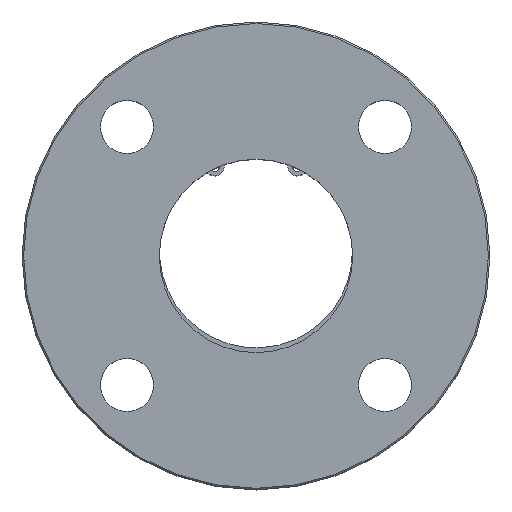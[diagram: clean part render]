
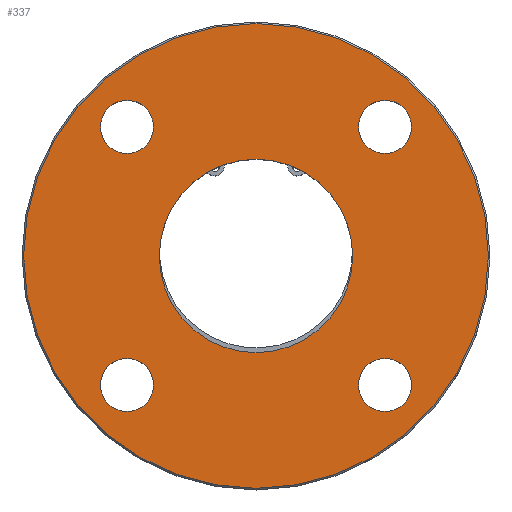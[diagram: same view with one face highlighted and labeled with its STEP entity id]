
A CAD part, top view. The second image highlights one B-rep face of the part: STEP entity #337.
In plain terms, the highlighted planar face has unit normal (0, 0, 1).
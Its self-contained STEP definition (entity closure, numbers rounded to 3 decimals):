
#15 = EDGE_LOOP ( 'NONE', ( #713, #1315 ) ) ;
#46 = DIRECTION ( 'NONE',  ( 0., 1., 0. ) ) ;
#67 = DIRECTION ( 'NONE',  ( 0., 0., -1. ) ) ;
#71 = ORIENTED_EDGE ( 'NONE', *, *, #89, .T. ) ;
#89 = EDGE_CURVE ( 'NONE', #999, #877, #511, .T. ) ;
#122 = FACE_BOUND ( 'NONE', #537, .T. ) ;
#135 = PLANE ( 'NONE',  #1384 ) ;
#139 = DIRECTION ( 'NONE',  ( -1., 0., 0. ) ) ;
#144 = EDGE_CURVE ( 'NONE', #877, #999, #740, .T. ) ;
#174 = EDGE_CURVE ( 'NONE', #558, #176, #371, .T. ) ;
#176 = VERTEX_POINT ( 'NONE', #1123 ) ;
#191 = CARTESIAN_POINT ( 'NONE',  ( 49.866, -41.366, 444.5 ) ) ;
#192 = ORIENTED_EDGE ( 'NONE', *, *, #1507, .F. ) ;
#197 = CARTESIAN_POINT ( 'NONE',  ( 41.366, 41.366, 444.5 ) ) ;
#200 = CARTESIAN_POINT ( 'NONE',  ( 0., 0., 444.5 ) ) ;
#201 = ORIENTED_EDGE ( 'NONE', *, *, #693, .T. ) ;
#208 = DIRECTION ( 'NONE',  ( 0., 0., -1. ) ) ;
#214 = EDGE_CURVE ( 'NONE', #502, #656, #252, .T. ) ;
#216 = DIRECTION ( 'NONE',  ( 0., 1., 0. ) ) ;
#225 = ORIENTED_EDGE ( 'NONE', *, *, #465, .T. ) ;
#231 = CIRCLE ( 'NONE', #417, 8.5 ) ;
#252 = CIRCLE ( 'NONE', #591, 8.5 ) ;
#269 = DIRECTION ( 'NONE',  ( 0., 0., -1. ) ) ;
#304 = CARTESIAN_POINT ( 'NONE',  ( -74.5, 0., 444.5 ) ) ;
#305 = EDGE_LOOP ( 'NONE', ( #71, #1402 ) ) ;
#325 = CIRCLE ( 'NONE', #1183, 8.5 ) ;
#335 = CARTESIAN_POINT ( 'NONE',  ( -41.366, 41.366, 444.5 ) ) ;
#337 = ADVANCED_FACE ( 'NONE', ( #946, #929, #577, #478, #122, #915 ), #135, .T. ) ;
#342 = CARTESIAN_POINT ( 'NONE',  ( 0., 0., 444.5 ) ) ;
#345 = ORIENTED_EDGE ( 'NONE', *, *, #647, .F. ) ;
#346 = CIRCLE ( 'NONE', #1054, 8.5 ) ;
#349 = VERTEX_POINT ( 'NONE', #1399 ) ;
#371 = CIRCLE ( 'NONE', #882, 8.5 ) ;
#381 = CARTESIAN_POINT ( 'NONE',  ( -31., 0., 444.5 ) ) ;
#384 = EDGE_LOOP ( 'NONE', ( #201, #406 ) ) ;
#406 = ORIENTED_EDGE ( 'NONE', *, *, #174, .T. ) ;
#417 = AXIS2_PLACEMENT_3D ( 'NONE', #1238, #208, #995 ) ;
#423 = EDGE_LOOP ( 'NONE', ( #968, #225 ) ) ;
#426 = CARTESIAN_POINT ( 'NONE',  ( 32.866, -41.366, 444.5 ) ) ;
#449 = DIRECTION ( 'NONE',  ( -1., 0., 0. ) ) ;
#452 = EDGE_LOOP ( 'NONE', ( #192, #345 ) ) ;
#465 = EDGE_CURVE ( 'NONE', #656, #502, #909, .T. ) ;
#478 = FACE_BOUND ( 'NONE', #423, .T. ) ;
#502 = VERTEX_POINT ( 'NONE', #777 ) ;
#511 = CIRCLE ( 'NONE', #1382, 31. ) ;
#537 = EDGE_LOOP ( 'NONE', ( #750, #784 ) ) ;
#546 = DIRECTION ( 'NONE',  ( -1., 0., 0. ) ) ;
#558 = VERTEX_POINT ( 'NONE', #1131 ) ;
#560 = AXIS2_PLACEMENT_3D ( 'NONE', #200, #1224, #546 ) ;
#564 = VERTEX_POINT ( 'NONE', #900 ) ;
#577 = FACE_BOUND ( 'NONE', #384, .T. ) ;
#582 = DIRECTION ( 'NONE',  ( 0., 1., 0. ) ) ;
#591 = AXIS2_PLACEMENT_3D ( 'NONE', #197, #1496, #216 ) ;
#597 = VERTEX_POINT ( 'NONE', #191 ) ;
#600 = DIRECTION ( 'NONE',  ( 0., 0., -1. ) ) ;
#603 = CARTESIAN_POINT ( 'NONE',  ( 74.5, 0., 444.5 ) ) ;
#611 = DIRECTION ( 'NONE',  ( 0., 0., -1. ) ) ;
#629 = DIRECTION ( 'NONE',  ( 1., 0., 0. ) ) ;
#638 = EDGE_CURVE ( 'NONE', #597, #1426, #231, .T. ) ;
#647 = EDGE_CURVE ( 'NONE', #942, #1469, #1083, .T. ) ;
#651 = DIRECTION ( 'NONE',  ( 0., -1., 0. ) ) ;
#652 = DIRECTION ( 'NONE',  ( -1., 0., 0. ) ) ;
#656 = VERTEX_POINT ( 'NONE', #1020 ) ;
#658 = DIRECTION ( 'NONE',  ( 0., 0., -1. ) ) ;
#670 = CARTESIAN_POINT ( 'NONE',  ( 0., 0., 444.5 ) ) ;
#693 = EDGE_CURVE ( 'NONE', #176, #558, #346, .T. ) ;
#713 = ORIENTED_EDGE ( 'NONE', *, *, #1392, .T. ) ;
#740 = CIRCLE ( 'NONE', #959, 31. ) ;
#750 = ORIENTED_EDGE ( 'NONE', *, *, #638, .T. ) ;
#774 = CARTESIAN_POINT ( 'NONE',  ( -41.366, -41.366, 444.5 ) ) ;
#777 = CARTESIAN_POINT ( 'NONE',  ( 41.366, 49.866, 444.5 ) ) ;
#784 = ORIENTED_EDGE ( 'NONE', *, *, #914, .T. ) ;
#830 = CIRCLE ( 'NONE', #560, 74.5 ) ;
#854 = AXIS2_PLACEMENT_3D ( 'NONE', #1189, #600, #139 ) ;
#859 = CIRCLE ( 'NONE', #1207, 8.5 ) ;
#874 = CARTESIAN_POINT ( 'NONE',  ( 31., 0., 444.5 ) ) ;
#877 = VERTEX_POINT ( 'NONE', #381 ) ;
#882 = AXIS2_PLACEMENT_3D ( 'NONE', #774, #658, #651 ) ;
#900 = CARTESIAN_POINT ( 'NONE',  ( -49.866, 41.366, 444.5 ) ) ;
#909 = CIRCLE ( 'NONE', #1459, 8.5 ) ;
#914 = EDGE_CURVE ( 'NONE', #1426, #597, #859, .T. ) ;
#915 = FACE_OUTER_BOUND ( 'NONE', #452, .T. ) ;
#929 = FACE_BOUND ( 'NONE', #305, .T. ) ;
#942 = VERTEX_POINT ( 'NONE', #603 ) ;
#946 = FACE_BOUND ( 'NONE', #15, .T. ) ;
#959 = AXIS2_PLACEMENT_3D ( 'NONE', #1199, #611, #1084 ) ;
#968 = ORIENTED_EDGE ( 'NONE', *, *, #214, .T. ) ;
#976 = DIRECTION ( 'NONE',  ( 0., 0., -1. ) ) ;
#995 = DIRECTION ( 'NONE',  ( 1., 0., 0. ) ) ;
#999 = VERTEX_POINT ( 'NONE', #874 ) ;
#1020 = CARTESIAN_POINT ( 'NONE',  ( 41.366, 32.866, 444.5 ) ) ;
#1047 = DIRECTION ( 'NONE',  ( 0., 0., -1. ) ) ;
#1054 = AXIS2_PLACEMENT_3D ( 'NONE', #1174, #1060, #1161 ) ;
#1060 = DIRECTION ( 'NONE',  ( 0., 0., -1. ) ) ;
#1082 = CARTESIAN_POINT ( 'NONE',  ( 41.366, -41.366, 444.5 ) ) ;
#1083 = CIRCLE ( 'NONE', #1429, 74.5 ) ;
#1084 = DIRECTION ( 'NONE',  ( 1., 0., 0. ) ) ;
#1115 = CARTESIAN_POINT ( 'NONE',  ( 0., 0., 444.5 ) ) ;
#1119 = EDGE_CURVE ( 'NONE', #349, #564, #325, .T. ) ;
#1123 = CARTESIAN_POINT ( 'NONE',  ( -41.366, -49.866, 444.5 ) ) ;
#1131 = CARTESIAN_POINT ( 'NONE',  ( -41.366, -32.866, 444.5 ) ) ;
#1161 = DIRECTION ( 'NONE',  ( 0., -1., 0. ) ) ;
#1174 = CARTESIAN_POINT ( 'NONE',  ( -41.366, -41.366, 444.5 ) ) ;
#1183 = AXIS2_PLACEMENT_3D ( 'NONE', #335, #1047, #449 ) ;
#1189 = CARTESIAN_POINT ( 'NONE',  ( -41.366, 41.366, 444.5 ) ) ;
#1191 = DIRECTION ( 'NONE',  ( 1., 0., 0. ) ) ;
#1199 = CARTESIAN_POINT ( 'NONE',  ( 0., 0., 444.5 ) ) ;
#1207 = AXIS2_PLACEMENT_3D ( 'NONE', #1082, #1329, #1191 ) ;
#1224 = DIRECTION ( 'NONE',  ( 0., 0., -1. ) ) ;
#1238 = CARTESIAN_POINT ( 'NONE',  ( 41.366, -41.366, 444.5 ) ) ;
#1315 = ORIENTED_EDGE ( 'NONE', *, *, #1119, .T. ) ;
#1329 = DIRECTION ( 'NONE',  ( 0., 0., -1. ) ) ;
#1382 = AXIS2_PLACEMENT_3D ( 'NONE', #1115, #269, #629 ) ;
#1384 = AXIS2_PLACEMENT_3D ( 'NONE', #342, #1424, #582 ) ;
#1392 = EDGE_CURVE ( 'NONE', #564, #349, #1481, .T. ) ;
#1399 = CARTESIAN_POINT ( 'NONE',  ( -32.866, 41.366, 444.5 ) ) ;
#1402 = ORIENTED_EDGE ( 'NONE', *, *, #144, .T. ) ;
#1424 = DIRECTION ( 'NONE',  ( 0., 0., 1. ) ) ;
#1426 = VERTEX_POINT ( 'NONE', #426 ) ;
#1429 = AXIS2_PLACEMENT_3D ( 'NONE', #670, #67, #652 ) ;
#1445 = CARTESIAN_POINT ( 'NONE',  ( 41.366, 41.366, 444.5 ) ) ;
#1459 = AXIS2_PLACEMENT_3D ( 'NONE', #1445, #976, #46 ) ;
#1469 = VERTEX_POINT ( 'NONE', #304 ) ;
#1481 = CIRCLE ( 'NONE', #854, 8.5 ) ;
#1496 = DIRECTION ( 'NONE',  ( 0., 0., -1. ) ) ;
#1507 = EDGE_CURVE ( 'NONE', #1469, #942, #830, .T. ) ;
